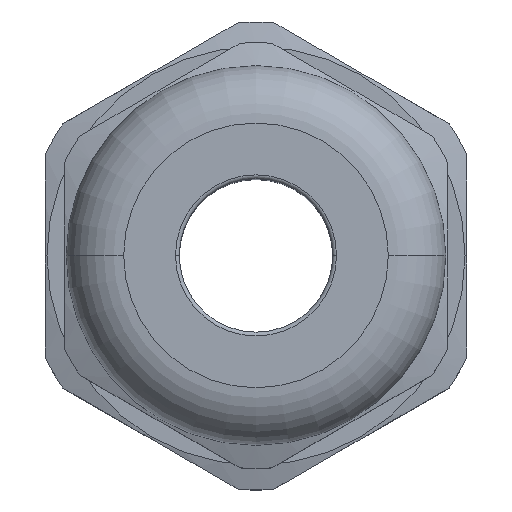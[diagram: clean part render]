
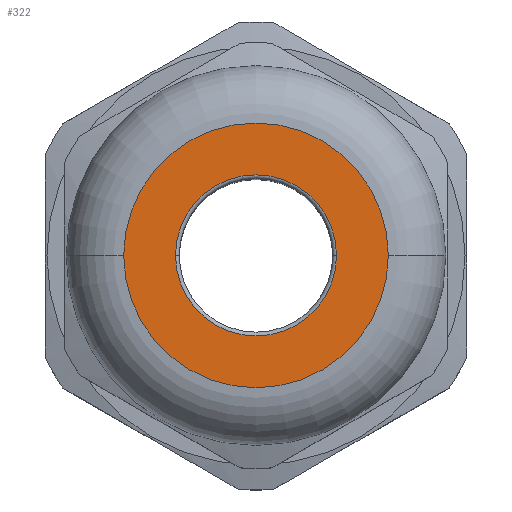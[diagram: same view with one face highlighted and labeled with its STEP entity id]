
A CAD part, top view. The second image highlights one B-rep face of the part: STEP entity #322.
In plain terms, the highlighted planar face has unit normal (0, 0, 1).
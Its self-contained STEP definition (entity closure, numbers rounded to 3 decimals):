
#96 = VERTEX_POINT ( 'NONE', #1283 ) ;
#98 = EDGE_CURVE ( 'NONE', #99, #96, #1282, .T. ) ;
#99 = VERTEX_POINT ( 'NONE', #1277 ) ;
#145 = EDGE_CURVE ( 'NONE', #149, #153, #1371, .T. ) ;
#149 = VERTEX_POINT ( 'NONE', #1361 ) ;
#153 = VERTEX_POINT ( 'NONE', #1238 ) ;
#221 = ORIENTED_EDGE ( 'NONE', *, *, #665, .F. ) ;
#322 = ADVANCED_FACE ( 'NONE', ( #1709, #1706 ), #1705, .T. ) ;
#323 = EDGE_LOOP ( 'NONE', ( #324, #326 ) ) ;
#324 = ORIENTED_EDGE ( 'NONE', *, *, #98, .T. ) ;
#325 = EDGE_LOOP ( 'NONE', ( #328, #221 ) ) ;
#326 = ORIENTED_EDGE ( 'NONE', *, *, #327, .T. ) ;
#327 = EDGE_CURVE ( 'NONE', #96, #99, #1699, .T. ) ;
#328 = ORIENTED_EDGE ( 'NONE', *, *, #145, .F. ) ;
#665 = EDGE_CURVE ( 'NONE', #153, #149, #2411, .T. ) ;
#1238 = CARTESIAN_POINT ( 'NONE',  ( 6.9, 0., 26.5 ) ) ;
#1277 = CARTESIAN_POINT ( 'NONE',  ( -4.2, 0., 26.5 ) ) ;
#1278 = DIRECTION ( 'NONE',  ( -1., 0., 0. ) ) ;
#1279 = DIRECTION ( 'NONE',  ( 0., 0., -1. ) ) ;
#1280 = CARTESIAN_POINT ( 'NONE',  ( 0., 0., 26.5 ) ) ;
#1281 = AXIS2_PLACEMENT_3D ( 'NONE', #1280, #1279, #1278 ) ;
#1282 = CIRCLE ( 'NONE', #1281, 4.2 ) ;
#1283 = CARTESIAN_POINT ( 'NONE',  ( 4.2, 0., 26.5 ) ) ;
#1361 = CARTESIAN_POINT ( 'NONE',  ( -6.9, 0., 26.5 ) ) ;
#1368 = DIRECTION ( 'NONE',  ( -1., 0., 0. ) ) ;
#1369 = DIRECTION ( 'NONE',  ( 0., 0., -1. ) ) ;
#1370 = AXIS2_PLACEMENT_3D ( 'NONE', #1376, #1369, #1368 ) ;
#1371 = CIRCLE ( 'NONE', #1370, 6.9 ) ;
#1376 = CARTESIAN_POINT ( 'NONE',  ( 0., 0., 26.5 ) ) ;
#1696 = DIRECTION ( 'NONE',  ( 0., 0., -1. ) ) ;
#1697 = CARTESIAN_POINT ( 'NONE',  ( 0., 0., 26.5 ) ) ;
#1698 = AXIS2_PLACEMENT_3D ( 'NONE', #1697, #1696, #1751 ) ;
#1699 = CIRCLE ( 'NONE', #1698, 4.2 ) ;
#1701 = DIRECTION ( 'NONE',  ( 1., 0., 0. ) ) ;
#1702 = DIRECTION ( 'NONE',  ( 0., 0., 1. ) ) ;
#1703 = CARTESIAN_POINT ( 'NONE',  ( 0., 6.9, 26.5 ) ) ;
#1704 = AXIS2_PLACEMENT_3D ( 'NONE', #1703, #1702, #1701 ) ;
#1705 = PLANE ( 'NONE',  #1704 ) ;
#1706 = FACE_OUTER_BOUND ( 'NONE', #325, .T. ) ;
#1709 = FACE_BOUND ( 'NONE', #323, .T. ) ;
#1751 = DIRECTION ( 'NONE',  ( -1., 0., 0. ) ) ;
#2407 = DIRECTION ( 'NONE',  ( -1., 0., 0. ) ) ;
#2408 = DIRECTION ( 'NONE',  ( 0., 0., -1. ) ) ;
#2409 = CARTESIAN_POINT ( 'NONE',  ( 0., 0., 26.5 ) ) ;
#2410 = AXIS2_PLACEMENT_3D ( 'NONE', #2409, #2408, #2407 ) ;
#2411 = CIRCLE ( 'NONE', #2410, 6.9 ) ;
